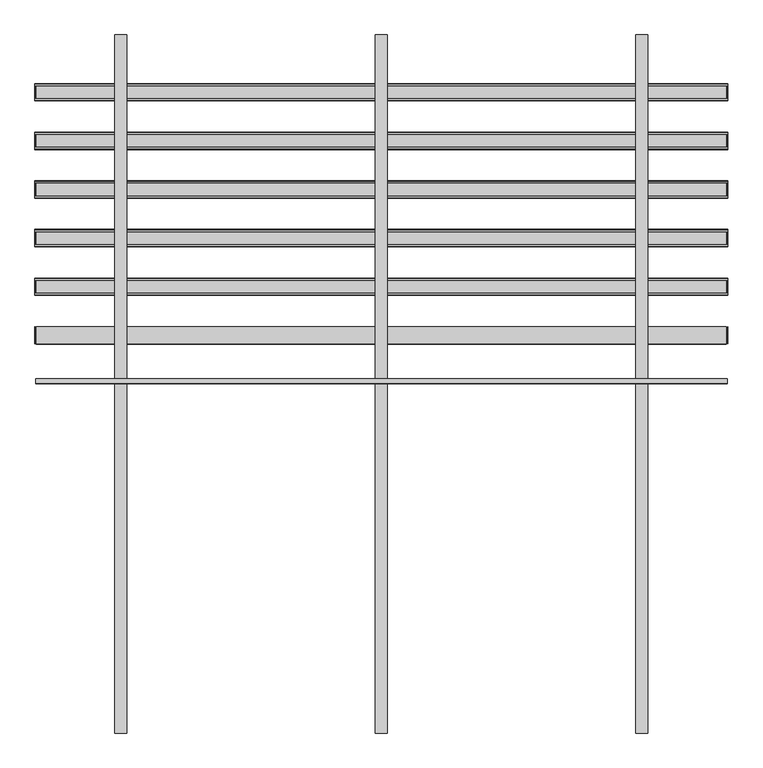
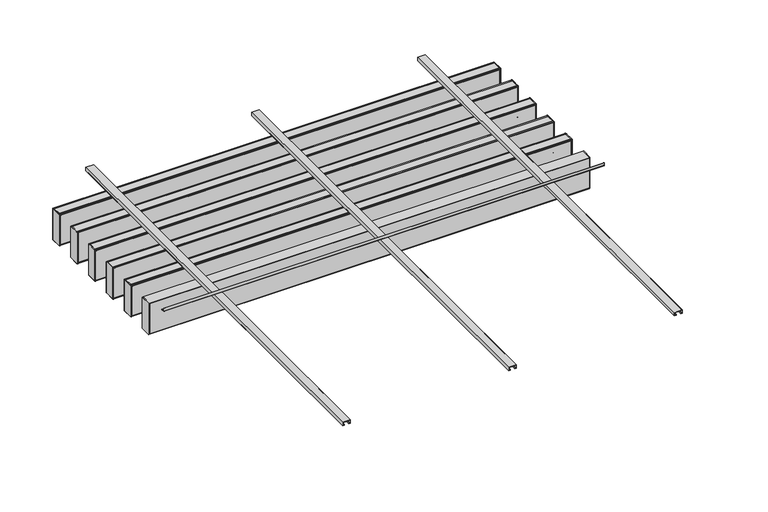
"""IFC4 building model written with IfcOpenShell, lengths in millimetres: proxy geometry, durlum_POLYLAM_KS : durlum_POLYLAM-KS/-S 100 RV-L6."""

from ifc_helpers import new_model, si_unit, point, frame, frame_2d, origin, place, context, project, spatial, polyline, circle_curve, trimmed, segment, composite_curve, outline, extrude, source, transform, mapped, element, save
from ifc_brep_helpers import plane_surface, cylinder_surface, advanced_brep


def generic_models_e6ab58be(model_context):
    return source(origin(), model_context, "Body", "SolidModel", [
        extrude(outline(polyline([(2027.0, 20.5), (2020.0, 20.5), (2020.0, 35.0), (2050.0, 35.0), (2050.0, -35.0), (2020.0, -35.0), (2020.0, -20.5), (2027.0, -20.5), (2027.0, -22.0), (2021.5, -22.0), (2021.5, -33.5), (2048.5, -33.5), (2048.5, 33.5), (2021.5, 33.5), (2021.5, 22.0), (2027.0, 22.0), (2027.0, 20.5)])), frame((0.0, -2010.0, 0.0), z_axis=(0.0, 1.0, 0.0), x_axis=(0.0, 0.0, 1.0)), (0.0, 0.0, 1.0), 4020.0),
        extrude(outline(polyline([(2027.0, -1479.5), (2020.0, -1479.5), (2020.0, -1465.0), (2050.0, -1465.0), (2050.0, -1535.0), (2020.0, -1535.0), (2020.0, -1520.5), (2027.0, -1520.5), (2027.0, -1522.0), (2021.5, -1522.0), (2021.5, -1533.5), (2048.5, -1533.5), (2048.5, -1466.5), (2021.5, -1466.5), (2021.5, -1478.0), (2027.0, -1478.0), (2027.0, -1479.5)])), frame((0.0, -2010.0, 0.0), z_axis=(0.0, 1.0, 0.0), x_axis=(0.0, 0.0, 1.0)), (0.0, 0.0, 1.0), 4020.0),
        extrude(outline(polyline([(2027.0, 1520.5), (2020.0, 1520.5), (2020.0, 1535.0), (2050.0, 1535.0), (2050.0, 1465.0), (2020.0, 1465.0), (2020.0, 1479.5), (2027.0, 1479.5), (2027.0, 1478.0), (2021.5, 1478.0), (2021.5, 1466.5), (2048.5, 1466.5), (2048.5, 1533.5), (2021.5, 1533.5), (2021.5, 1522.0), (2027.0, 1522.0), (2027.0, 1520.5)])), frame((0.0, -2010.0, 0.0), z_axis=(0.0, 1.0, 0.0), x_axis=(0.0, 0.0, 1.0)), (0.0, 0.0, 1.0), 4020.0),
        extrude(outline(composite_curve([segment(polyline([(2.0, 2079.9), (2.0, 2054.0)]), True, "CONTINUOUS"), segment(trimmed(circle_curve(frame_2d((4.0, 2054.0)), 2.0), [point((2.0, 2054.0))], [point((4.0, 2052.0))], True, "CARTESIAN"), True, "CONTINUOUS"), segment(polyline([(4.0, 2052.0), (29.9, 2052.0), (29.9, 2050.0), (4.0, 2050.0)]), True, "CONTINUOUS"), segment(trimmed(circle_curve(frame_2d((4.0, 2054.0)), 4.0), [point((4.0, 2050.0))], [point((0.0, 2054.0))], False, "CARTESIAN"), True, "CONTINUOUS"), segment(polyline([(0.0, 2054.0), (0.0, 2079.9), (2.0, 2079.9)]), True, "CONTINUOUS")], self_intersect=False)), frame((-1990.0, 0.0, 0.0), z_axis=(1.0, 0.0, 0.0), x_axis=(0.0, 1.0, 0.0)), (0.0, 0.0, 1.0), 3980.0),
        extrude(outline(polyline([(1993.0, 1729.0), (1995.0, 1729.0), (1995.0, 1631.0), (1993.0, 1631.0), (1993.0, 1729.0)])), frame((0.0, 0.0, 1691.9), z_axis=(0.0, 0.0, 1.0), x_axis=(1.0, 0.0, 0.0)), (0.0, 0.0, 1.0), 298.1604454),
        extrude(outline(polyline([(-1995.0, 1729.0), (-1993.0, 1729.0), (-1993.0, 1631.0), (-1995.0, 1631.0), (-1995.0, 1729.0)])), frame((0.0, 0.0, 1691.9), z_axis=(0.0, 0.0, 1.0), x_axis=(1.0, 0.0, 0.0)), (0.0, 0.0, 1.0), 298.1604454),
        extrude(outline(polyline([(1986.5, 1729.0), (1986.5, 1631.0), (-1986.5, 1631.0), (-1986.5, 1729.0), (1986.5, 1729.0)])), frame((0.0, 0.0, 1691.9), z_axis=(0.0, 0.0, 1.0), x_axis=(1.0, 0.0, 0.0)), (0.0, 0.0, 1.0), 298.0),
        extrude(outline(polyline([(1986.5, 1729.0), (-1986.5, 1729.0), (-1986.5, 1730.0), (1986.5, 1730.0), (1986.5, 1729.0)])), frame((0.0, 0.0, 1699.4), z_axis=(0.0, 0.0, 1.0), x_axis=(1.0, 0.0, 0.0)), (0.0, 0.0, 1.0), 283.0),
        extrude(outline(polyline([(1986.5, 1630.0), (-1986.5, 1630.0), (-1986.5, 1631.0), (1986.5, 1631.0), (1986.5, 1630.0)])), frame((0.0, 0.0, 1699.4), z_axis=(0.0, 0.0, 1.0), x_axis=(1.0, 0.0, 0.0)), (0.0, 0.0, 1.0), 283.0),
        advanced_brep(
        [(1995.0, 1728.0, 1990.9), (1995.0, 1718.0, 1990.9), (1995.0, 1718.0, 1990.0604454), (1995.0, 1729.0, 1990.0604454), (1995.0, 1729.0, 1691.9), (1995.0, 1631.0, 1691.9), (1995.0, 1631.0, 1989.8155735), (1995.0, 1642.0, 1989.8155735), (1995.0, 1642.0, 1990.9), (1995.0, 1632.0, 1990.9), (1995.0, 1630.0, 1988.9), (1995.0, 1630.0, 1692.9), (1995.0, 1632.0, 1690.9), (1995.0, 1728.0, 1690.9), (1995.0, 1730.0, 1692.9), (1995.0, 1730.0, 1988.9), (-1995.0, 1728.0, 1990.9), (-1995.0, 1730.0, 1988.9), (-1995.0, 1730.0, 1692.9), (-1995.0, 1728.0, 1690.9), (-1995.0, 1632.0, 1690.9), (-1995.0, 1630.0, 1692.9), (-1995.0, 1630.0, 1988.9), (-1995.0, 1632.0, 1990.9), (-1995.0, 1642.0, 1990.9), (-1995.0, 1642.0, 1989.8155735), (-1995.0, 1631.0, 1989.8155735), (-1995.0, 1631.0, 1691.9), (-1995.0, 1729.0, 1691.9), (-1995.0, 1729.0, 1990.0604454), (-1995.0, 1718.0, 1990.0604454), (-1995.0, 1718.0, 1990.9), (-1986.5, 1729.0, 1982.4), (1986.5, 1729.0, 1982.4), (1986.5, 1729.0, 1699.4), (-1986.5, 1729.0, 1699.4), (1986.5, 1631.0, 1982.4), (-1986.5, 1631.0, 1982.4), (-1986.5, 1631.0, 1699.4), (1986.5, 1631.0, 1699.4), (-1986.5, 1630.0, 1982.4), (1986.5, 1630.0, 1982.4), (1986.5, 1630.0, 1699.4), (-1986.5, 1630.0, 1699.4), (1986.5, 1730.0, 1982.4), (-1986.5, 1730.0, 1982.4), (-1986.5, 1730.0, 1699.4), (1986.5, 1730.0, 1699.4)],
        [
            (0, 1),
            (1, 2),
            (2, 3),
            (3, 4),
            (4, 5),
            (5, 6),
            (6, 7),
            (7, 8),
            (8, 9),
            (9, 10, circle_curve(frame((1995.0, 1632.0, 1988.9), z_axis=(1.0, 0.0, 0.0), x_axis=(0.0, 1.0, 0.0)), 2.0)),
            (10, 11),
            (11, 12, circle_curve(frame((1995.0, 1632.0, 1692.9), z_axis=(1.0, 0.0, 0.0), x_axis=(0.0, 1.0, 0.0)), 2.0)),
            (12, 13),
            (13, 14, circle_curve(frame((1995.0, 1728.0, 1692.9), z_axis=(1.0, 0.0, 0.0), x_axis=(0.0, 1.0, 0.0)), 2.0)),
            (14, 15),
            (15, 0, circle_curve(frame((1995.0, 1728.0, 1988.9), z_axis=(1.0, 0.0, 0.0), x_axis=(0.0, 1.0, 0.0)), 2.0)),
            (16, 17, circle_curve(frame((-1995.0, 1728.0, 1988.9), z_axis=(-1.0, 0.0, 0.0), x_axis=(0.0, 1.0, 0.0)), 2.0)),
            (17, 18),
            (18, 19, circle_curve(frame((-1995.0, 1728.0, 1692.9), z_axis=(-1.0, 0.0, 0.0), x_axis=(0.0, 1.0, 0.0)), 2.0)),
            (19, 20),
            (20, 21, circle_curve(frame((-1995.0, 1632.0, 1692.9), z_axis=(-1.0, 0.0, 0.0), x_axis=(0.0, 1.0, 0.0)), 2.0)),
            (21, 22),
            (22, 23, circle_curve(frame((-1995.0, 1632.0, 1988.9), z_axis=(-1.0, 0.0, 0.0), x_axis=(0.0, 1.0, 0.0)), 2.0)),
            (23, 24),
            (24, 25),
            (25, 26),
            (26, 27),
            (27, 28),
            (28, 29),
            (29, 30),
            (30, 31),
            (31, 16),
            (0, 16),
            (31, 1),
            (30, 2),
            (29, 3),
            (28, 4),
            (32, 33),
            (33, 34),
            (34, 35),
            (35, 32),
            (27, 5),
            (26, 6),
            (36, 37),
            (37, 38),
            (38, 39),
            (39, 36),
            (25, 7),
            (24, 8),
            (23, 9),
            (10, 22),
            (21, 11),
            (40, 41),
            (41, 42),
            (42, 43),
            (43, 40),
            (12, 20),
            (19, 13),
            (14, 18),
            (17, 15),
            (44, 45),
            (45, 46),
            (46, 47),
            (47, 44),
            (44, 33),
            (32, 45),
            (36, 41),
            (40, 37),
            (35, 46),
            (43, 38),
            (34, 47),
            (42, 39),
        ],
        [
            plane_surface(frame((1995.0, 1718.0, 1990.9), z_axis=(1.0, 0.0, 0.0), x_axis=(0.0, -1.0, 0.0))),
            plane_surface(frame((-1995.0, 1718.0, 1990.9), z_axis=(-1.0, 0.0, 0.0), x_axis=(0.0, 1.0, 0.0))),
            plane_surface(frame((1995.0, 1728.0, 1990.9), z_axis=(0.0, 0.0, 1.0), x_axis=(-1.0, 0.0, 0.0))),
            plane_surface(frame((1995.0, 1718.0, 1990.9), z_axis=(0.0, -1.0, 0.0), x_axis=(-1.0, 0.0, 0.0))),
            plane_surface(frame((1995.0, 1718.0, 1990.0604454), z_axis=(0.0, 0.0, -1.0), x_axis=(-1.0, 0.0, 0.0))),
            plane_surface(frame((1995.0, 1729.0, 1990.0604454), z_axis=(0.0, -1.0, 0.0), x_axis=(-1.0, 0.0, 0.0))),
            plane_surface(frame((1995.0, 1729.0, 1691.9), z_axis=(0.0, 0.0, 1.0), x_axis=(-1.0, 0.0, 0.0))),
            plane_surface(frame((1995.0, 1631.0, 1691.9), z_axis=(0.0, 1.0, 0.0), x_axis=(-1.0, 0.0, 0.0))),
            plane_surface(frame((1995.0, 1631.0, 1989.8155735), z_axis=(0.0, 0.0, -1.0), x_axis=(-1.0, 0.0, 0.0))),
            plane_surface(frame((1995.0, 1642.0, 1989.8155735), z_axis=(0.0, 1.0, 0.0), x_axis=(-1.0, 0.0, 0.0))),
            plane_surface(frame((1995.0, 1642.0, 1990.9), z_axis=(0.0, 0.0, 1.0), x_axis=(-1.0, 0.0, 0.0))),
            plane_surface(frame((1995.0, 1630.0, 1988.9), z_axis=(0.0, -1.0, 0.0), x_axis=(-1.0, 0.0, 0.0))),
            plane_surface(frame((1995.0, 1632.0, 1690.9), z_axis=(0.0, 0.0, -1.0), x_axis=(-1.0, 0.0, 0.0))),
            plane_surface(frame((1995.0, 1730.0, 1692.9), z_axis=(0.0, 1.0, 0.0), x_axis=(-1.0, 0.0, 0.0))),
            cylinder_surface(frame((-1995.0, 1632.0, 1988.9), z_axis=(1.0, 0.0, 0.0), x_axis=(0.0, 1.0, 0.0)), 2.0),
            cylinder_surface(frame((-1995.0, 1632.0, 1692.9), z_axis=(1.0, 0.0, 0.0), x_axis=(0.0, 1.0, 0.0)), 2.0),
            cylinder_surface(frame((-1995.0, 1728.0, 1692.9), z_axis=(1.0, 0.0, 0.0), x_axis=(0.0, 1.0, 0.0)), 2.0),
            cylinder_surface(frame((-1995.0, 1728.0, 1988.9), z_axis=(1.0, 0.0, 0.0), x_axis=(0.0, 1.0, 0.0)), 2.0),
            plane_surface(frame((1986.5, 1630.0, 1982.4), z_axis=(0.0, 0.0, -1.0), x_axis=(0.0, 1.0, 0.0))),
            plane_surface(frame((-1986.5, 1630.0, 1982.4), z_axis=(1.0, 0.0, 0.0), x_axis=(0.0, 1.0, 0.0))),
            plane_surface(frame((-1986.5, 1630.0, 1699.4), z_axis=(0.0, 0.0, 1.0), x_axis=(0.0, 1.0, 0.0))),
            plane_surface(frame((1986.5, 1630.0, 1699.4), z_axis=(-1.0, 0.0, 0.0), x_axis=(0.0, 1.0, 0.0))),
        ],
        [
            (0, [[1, 2, 3, 4, 5, 6, 7, 8, 9, 10, 11, 12, 13, 14, 15, 16]]),
            (1, [[17, 18, 19, 20, 21, 22, 23, 24, 25, 26, 27, 28, 29, 30, 31, 32]]),
            (2, [[-1, 33, -32, 34]]),
            (3, [[-2, -34, -31, 35]]),
            (4, [[-3, -35, -30, 36]]),
            (5, [[-4, -36, -29, 37], [38, 39, 40, 41]]),
            (6, [[-5, -37, -28, 42]]),
            (7, [[-6, -42, -27, 43], [44, 45, 46, 47]]),
            (8, [[-7, -43, -26, 48]]),
            (9, [[-8, -48, -25, 49]]),
            (10, [[-9, -49, -24, 50]]),
            (11, [[-11, 51, -22, 52], [53, 54, 55, 56]]),
            (12, [[-13, 57, -20, 58]]),
            (13, [[-15, 59, -18, 60], [61, 62, 63, 64]]),
            (14, [[-10, -50, -23, -51]]),
            (15, [[-12, -52, -21, -57]]),
            (16, [[-14, -58, -19, -59]]),
            (17, [[-16, -60, -17, -33]]),
            (18, [[65, -38, 66, -61]]),
            (18, [[67, -53, 68, -44]]),
            (19, [[-66, -41, 69, -62]]),
            (19, [[-68, -56, 70, -45]]),
            (20, [[-69, -40, 71, -63]]),
            (20, [[-70, -55, 72, -46]]),
            (21, [[-65, -64, -71, -39]]),
            (21, [[-67, -47, -72, -54]]),
        ],
    ),
        extrude(outline(polyline([(1993.0, 1449.0), (1995.0, 1449.0), (1995.0, 1351.0), (1993.0, 1351.0), (1993.0, 1449.0)])), frame((0.0, 0.0, 1691.9), z_axis=(0.0, 0.0, 1.0), x_axis=(1.0, 0.0, 0.0)), (0.0, 0.0, 1.0), 298.1604454),
        extrude(outline(polyline([(-1995.0, 1449.0), (-1993.0, 1449.0), (-1993.0, 1351.0), (-1995.0, 1351.0), (-1995.0, 1449.0)])), frame((0.0, 0.0, 1691.9), z_axis=(0.0, 0.0, 1.0), x_axis=(1.0, 0.0, 0.0)), (0.0, 0.0, 1.0), 298.1604454),
        extrude(outline(polyline([(1986.5, 1449.0), (1986.5, 1351.0), (-1986.5, 1351.0), (-1986.5, 1449.0), (1986.5, 1449.0)])), frame((0.0, 0.0, 1691.9), z_axis=(0.0, 0.0, 1.0), x_axis=(1.0, 0.0, 0.0)), (0.0, 0.0, 1.0), 298.0),
        extrude(outline(polyline([(1986.5, 1449.0), (-1986.5, 1449.0), (-1986.5, 1450.0), (1986.5, 1450.0), (1986.5, 1449.0)])), frame((0.0, 0.0, 1699.4), z_axis=(0.0, 0.0, 1.0), x_axis=(1.0, 0.0, 0.0)), (0.0, 0.0, 1.0), 283.0),
        extrude(outline(polyline([(1986.5, 1350.0), (-1986.5, 1350.0), (-1986.5, 1351.0), (1986.5, 1351.0), (1986.5, 1350.0)])), frame((0.0, 0.0, 1699.4), z_axis=(0.0, 0.0, 1.0), x_axis=(1.0, 0.0, 0.0)), (0.0, 0.0, 1.0), 283.0),
        advanced_brep(
        [(1995.0, 1448.0, 1990.9), (1995.0, 1438.0, 1990.9), (1995.0, 1438.0, 1990.0604454), (1995.0, 1449.0, 1990.0604454), (1995.0, 1449.0, 1691.9), (1995.0, 1351.0, 1691.9), (1995.0, 1351.0, 1989.8155735), (1995.0, 1362.0, 1989.8155735), (1995.0, 1362.0, 1990.9), (1995.0, 1352.0, 1990.9), (1995.0, 1350.0, 1988.9), (1995.0, 1350.0, 1692.9), (1995.0, 1352.0, 1690.9), (1995.0, 1448.0, 1690.9), (1995.0, 1450.0, 1692.9), (1995.0, 1450.0, 1988.9), (-1995.0, 1448.0, 1990.9), (-1995.0, 1450.0, 1988.9), (-1995.0, 1450.0, 1692.9), (-1995.0, 1448.0, 1690.9), (-1995.0, 1352.0, 1690.9), (-1995.0, 1350.0, 1692.9), (-1995.0, 1350.0, 1988.9), (-1995.0, 1352.0, 1990.9), (-1995.0, 1362.0, 1990.9), (-1995.0, 1362.0, 1989.8155735), (-1995.0, 1351.0, 1989.8155735), (-1995.0, 1351.0, 1691.9), (-1995.0, 1449.0, 1691.9), (-1995.0, 1449.0, 1990.0604454), (-1995.0, 1438.0, 1990.0604454), (-1995.0, 1438.0, 1990.9), (-1986.5, 1449.0, 1982.4), (1986.5, 1449.0, 1982.4), (1986.5, 1449.0, 1699.4), (-1986.5, 1449.0, 1699.4), (1986.5, 1351.0, 1982.4), (-1986.5, 1351.0, 1982.4), (-1986.5, 1351.0, 1699.4), (1986.5, 1351.0, 1699.4), (-1986.5, 1350.0, 1982.4), (1986.5, 1350.0, 1982.4), (1986.5, 1350.0, 1699.4), (-1986.5, 1350.0, 1699.4), (1986.5, 1450.0, 1982.4), (-1986.5, 1450.0, 1982.4), (-1986.5, 1450.0, 1699.4), (1986.5, 1450.0, 1699.4)],
        [
            (0, 1),
            (1, 2),
            (2, 3),
            (3, 4),
            (4, 5),
            (5, 6),
            (6, 7),
            (7, 8),
            (8, 9),
            (9, 10, circle_curve(frame((1995.0, 1352.0, 1988.9), z_axis=(1.0, 0.0, 0.0), x_axis=(0.0, 1.0, 0.0)), 2.0)),
            (10, 11),
            (11, 12, circle_curve(frame((1995.0, 1352.0, 1692.9), z_axis=(1.0, 0.0, 0.0), x_axis=(0.0, 1.0, 0.0)), 2.0)),
            (12, 13),
            (13, 14, circle_curve(frame((1995.0, 1448.0, 1692.9), z_axis=(1.0, 0.0, 0.0), x_axis=(0.0, 1.0, 0.0)), 2.0)),
            (14, 15),
            (15, 0, circle_curve(frame((1995.0, 1448.0, 1988.9), z_axis=(1.0, 0.0, 0.0), x_axis=(0.0, 1.0, 0.0)), 2.0)),
            (16, 17, circle_curve(frame((-1995.0, 1448.0, 1988.9), z_axis=(-1.0, 0.0, 0.0), x_axis=(0.0, 1.0, 0.0)), 2.0)),
            (17, 18),
            (18, 19, circle_curve(frame((-1995.0, 1448.0, 1692.9), z_axis=(-1.0, 0.0, 0.0), x_axis=(0.0, 1.0, 0.0)), 2.0)),
            (19, 20),
            (20, 21, circle_curve(frame((-1995.0, 1352.0, 1692.9), z_axis=(-1.0, 0.0, 0.0), x_axis=(0.0, 1.0, 0.0)), 2.0)),
            (21, 22),
            (22, 23, circle_curve(frame((-1995.0, 1352.0, 1988.9), z_axis=(-1.0, 0.0, 0.0), x_axis=(0.0, 1.0, 0.0)), 2.0)),
            (23, 24),
            (24, 25),
            (25, 26),
            (26, 27),
            (27, 28),
            (28, 29),
            (29, 30),
            (30, 31),
            (31, 16),
            (0, 16),
            (31, 1),
            (30, 2),
            (29, 3),
            (28, 4),
            (32, 33),
            (33, 34),
            (34, 35),
            (35, 32),
            (27, 5),
            (26, 6),
            (36, 37),
            (37, 38),
            (38, 39),
            (39, 36),
            (25, 7),
            (24, 8),
            (23, 9),
            (10, 22),
            (21, 11),
            (40, 41),
            (41, 42),
            (42, 43),
            (43, 40),
            (12, 20),
            (19, 13),
            (14, 18),
            (17, 15),
            (44, 45),
            (45, 46),
            (46, 47),
            (47, 44),
            (44, 33),
            (32, 45),
            (36, 41),
            (40, 37),
            (35, 46),
            (43, 38),
            (34, 47),
            (42, 39),
        ],
        [
            plane_surface(frame((1995.0, 1438.0, 1990.9), z_axis=(1.0, 0.0, 0.0), x_axis=(0.0, -1.0, 0.0))),
            plane_surface(frame((-1995.0, 1438.0, 1990.9), z_axis=(-1.0, 0.0, 0.0), x_axis=(0.0, 1.0, 0.0))),
            plane_surface(frame((1995.0, 1448.0, 1990.9), z_axis=(0.0, 0.0, 1.0), x_axis=(-1.0, 0.0, 0.0))),
            plane_surface(frame((1995.0, 1438.0, 1990.9), z_axis=(0.0, -1.0, 0.0), x_axis=(-1.0, 0.0, 0.0))),
            plane_surface(frame((1995.0, 1438.0, 1990.0604454), z_axis=(0.0, 0.0, -1.0), x_axis=(-1.0, 0.0, 0.0))),
            plane_surface(frame((1995.0, 1449.0, 1990.0604454), z_axis=(0.0, -1.0, 0.0), x_axis=(-1.0, 0.0, 0.0))),
            plane_surface(frame((1995.0, 1449.0, 1691.9), z_axis=(0.0, 0.0, 1.0), x_axis=(-1.0, 0.0, 0.0))),
            plane_surface(frame((1995.0, 1351.0, 1691.9), z_axis=(0.0, 1.0, 0.0), x_axis=(-1.0, 0.0, 0.0))),
            plane_surface(frame((1995.0, 1351.0, 1989.8155735), z_axis=(0.0, 0.0, -1.0), x_axis=(-1.0, 0.0, 0.0))),
            plane_surface(frame((1995.0, 1362.0, 1989.8155735), z_axis=(0.0, 1.0, 0.0), x_axis=(-1.0, 0.0, 0.0))),
            plane_surface(frame((1995.0, 1362.0, 1990.9), z_axis=(0.0, 0.0, 1.0), x_axis=(-1.0, 0.0, 0.0))),
            plane_surface(frame((1995.0, 1350.0, 1988.9), z_axis=(0.0, -1.0, 0.0), x_axis=(-1.0, 0.0, 0.0))),
            plane_surface(frame((1995.0, 1352.0, 1690.9), z_axis=(0.0, 0.0, -1.0), x_axis=(-1.0, 0.0, 0.0))),
            plane_surface(frame((1995.0, 1450.0, 1692.9), z_axis=(0.0, 1.0, 0.0), x_axis=(-1.0, 0.0, 0.0))),
            cylinder_surface(frame((-1995.0, 1352.0, 1988.9), z_axis=(1.0, 0.0, 0.0), x_axis=(0.0, 1.0, 0.0)), 2.0),
            cylinder_surface(frame((-1995.0, 1352.0, 1692.9), z_axis=(1.0, 0.0, 0.0), x_axis=(0.0, 1.0, 0.0)), 2.0),
            cylinder_surface(frame((-1995.0, 1448.0, 1692.9), z_axis=(1.0, 0.0, 0.0), x_axis=(0.0, 1.0, 0.0)), 2.0),
            cylinder_surface(frame((-1995.0, 1448.0, 1988.9), z_axis=(1.0, 0.0, 0.0), x_axis=(0.0, 1.0, 0.0)), 2.0),
            plane_surface(frame((1986.5, 1350.0, 1982.4), z_axis=(0.0, 0.0, -1.0), x_axis=(0.0, 1.0, 0.0))),
            plane_surface(frame((-1986.5, 1350.0, 1982.4), z_axis=(1.0, 0.0, 0.0), x_axis=(0.0, 1.0, 0.0))),
            plane_surface(frame((-1986.5, 1350.0, 1699.4), z_axis=(0.0, 0.0, 1.0), x_axis=(0.0, 1.0, 0.0))),
            plane_surface(frame((1986.5, 1350.0, 1699.4), z_axis=(-1.0, 0.0, 0.0), x_axis=(0.0, 1.0, 0.0))),
        ],
        [
            (0, [[1, 2, 3, 4, 5, 6, 7, 8, 9, 10, 11, 12, 13, 14, 15, 16]]),
            (1, [[17, 18, 19, 20, 21, 22, 23, 24, 25, 26, 27, 28, 29, 30, 31, 32]]),
            (2, [[-1, 33, -32, 34]]),
            (3, [[-2, -34, -31, 35]]),
            (4, [[-3, -35, -30, 36]]),
            (5, [[-4, -36, -29, 37], [38, 39, 40, 41]]),
            (6, [[-5, -37, -28, 42]]),
            (7, [[-6, -42, -27, 43], [44, 45, 46, 47]]),
            (8, [[-7, -43, -26, 48]]),
            (9, [[-8, -48, -25, 49]]),
            (10, [[-9, -49, -24, 50]]),
            (11, [[-11, 51, -22, 52], [53, 54, 55, 56]]),
            (12, [[-13, 57, -20, 58]]),
            (13, [[-15, 59, -18, 60], [61, 62, 63, 64]]),
            (14, [[-10, -50, -23, -51]]),
            (15, [[-12, -52, -21, -57]]),
            (16, [[-14, -58, -19, -59]]),
            (17, [[-16, -60, -17, -33]]),
            (18, [[65, -38, 66, -61]]),
            (18, [[67, -53, 68, -44]]),
            (19, [[-66, -41, 69, -62]]),
            (19, [[-68, -56, 70, -45]]),
            (20, [[-69, -40, 71, -63]]),
            (20, [[-70, -55, 72, -46]]),
            (21, [[-65, -64, -71, -39]]),
            (21, [[-67, -47, -72, -54]]),
        ],
    ),
        extrude(outline(polyline([(1993.0, 1169.0), (1995.0, 1169.0), (1995.0, 1071.0), (1993.0, 1071.0), (1993.0, 1169.0)])), frame((0.0, 0.0, 1691.9), z_axis=(0.0, 0.0, 1.0), x_axis=(1.0, 0.0, 0.0)), (0.0, 0.0, 1.0), 298.1604454),
        extrude(outline(polyline([(-1995.0, 1169.0), (-1993.0, 1169.0), (-1993.0, 1071.0), (-1995.0, 1071.0), (-1995.0, 1169.0)])), frame((0.0, 0.0, 1691.9), z_axis=(0.0, 0.0, 1.0), x_axis=(1.0, 0.0, 0.0)), (0.0, 0.0, 1.0), 298.1604454),
        extrude(outline(polyline([(1986.5, 1169.0), (1986.5, 1071.0), (-1986.5, 1071.0), (-1986.5, 1169.0), (1986.5, 1169.0)])), frame((0.0, 0.0, 1691.9), z_axis=(0.0, 0.0, 1.0), x_axis=(1.0, 0.0, 0.0)), (0.0, 0.0, 1.0), 298.0),
        extrude(outline(polyline([(1986.5, 1169.0), (-1986.5, 1169.0), (-1986.5, 1170.0), (1986.5, 1170.0), (1986.5, 1169.0)])), frame((0.0, 0.0, 1699.4), z_axis=(0.0, 0.0, 1.0), x_axis=(1.0, 0.0, 0.0)), (0.0, 0.0, 1.0), 283.0),
        extrude(outline(polyline([(1986.5, 1070.0), (-1986.5, 1070.0), (-1986.5, 1071.0), (1986.5, 1071.0), (1986.5, 1070.0)])), frame((0.0, 0.0, 1699.4), z_axis=(0.0, 0.0, 1.0), x_axis=(1.0, 0.0, 0.0)), (0.0, 0.0, 1.0), 283.0),
        advanced_brep(
        [(1995.0, 1168.0, 1990.9), (1995.0, 1158.0, 1990.9), (1995.0, 1158.0, 1990.0604454), (1995.0, 1169.0, 1990.0604454), (1995.0, 1169.0, 1691.9), (1995.0, 1071.0, 1691.9), (1995.0, 1071.0, 1989.8155735), (1995.0, 1082.0, 1989.8155735), (1995.0, 1082.0, 1990.9), (1995.0, 1072.0, 1990.9), (1995.0, 1070.0, 1988.9), (1995.0, 1070.0, 1692.9), (1995.0, 1072.0, 1690.9), (1995.0, 1168.0, 1690.9), (1995.0, 1170.0, 1692.9), (1995.0, 1170.0, 1988.9), (-1995.0, 1168.0, 1990.9), (-1995.0, 1170.0, 1988.9), (-1995.0, 1170.0, 1692.9), (-1995.0, 1168.0, 1690.9), (-1995.0, 1072.0, 1690.9), (-1995.0, 1070.0, 1692.9), (-1995.0, 1070.0, 1988.9), (-1995.0, 1072.0, 1990.9), (-1995.0, 1082.0, 1990.9), (-1995.0, 1082.0, 1989.8155735), (-1995.0, 1071.0, 1989.8155735), (-1995.0, 1071.0, 1691.9), (-1995.0, 1169.0, 1691.9), (-1995.0, 1169.0, 1990.0604454), (-1995.0, 1158.0, 1990.0604454), (-1995.0, 1158.0, 1990.9), (-1986.5, 1169.0, 1982.4), (1986.5, 1169.0, 1982.4), (1986.5, 1169.0, 1699.4), (-1986.5, 1169.0, 1699.4), (1986.5, 1071.0, 1982.4), (-1986.5, 1071.0, 1982.4), (-1986.5, 1071.0, 1699.4), (1986.5, 1071.0, 1699.4), (-1986.5, 1070.0, 1982.4), (1986.5, 1070.0, 1982.4), (1986.5, 1070.0, 1699.4), (-1986.5, 1070.0, 1699.4), (1986.5, 1170.0, 1982.4), (-1986.5, 1170.0, 1982.4), (-1986.5, 1170.0, 1699.4), (1986.5, 1170.0, 1699.4)],
        [
            (0, 1),
            (1, 2),
            (2, 3),
            (3, 4),
            (4, 5),
            (5, 6),
            (6, 7),
            (7, 8),
            (8, 9),
            (9, 10, circle_curve(frame((1995.0, 1072.0, 1988.9), z_axis=(1.0, 0.0, 0.0), x_axis=(0.0, 1.0, 0.0)), 2.0)),
            (10, 11),
            (11, 12, circle_curve(frame((1995.0, 1072.0, 1692.9), z_axis=(1.0, 0.0, 0.0), x_axis=(0.0, 1.0, 0.0)), 2.0)),
            (12, 13),
            (13, 14, circle_curve(frame((1995.0, 1168.0, 1692.9), z_axis=(1.0, 0.0, 0.0), x_axis=(0.0, 1.0, 0.0)), 2.0)),
            (14, 15),
            (15, 0, circle_curve(frame((1995.0, 1168.0, 1988.9), z_axis=(1.0, 0.0, 0.0), x_axis=(0.0, 1.0, 0.0)), 2.0)),
            (16, 17, circle_curve(frame((-1995.0, 1168.0, 1988.9), z_axis=(-1.0, 0.0, 0.0), x_axis=(0.0, 1.0, 0.0)), 2.0)),
            (17, 18),
            (18, 19, circle_curve(frame((-1995.0, 1168.0, 1692.9), z_axis=(-1.0, 0.0, 0.0), x_axis=(0.0, 1.0, 0.0)), 2.0)),
            (19, 20),
            (20, 21, circle_curve(frame((-1995.0, 1072.0, 1692.9), z_axis=(-1.0, 0.0, 0.0), x_axis=(0.0, 1.0, 0.0)), 2.0)),
            (21, 22),
            (22, 23, circle_curve(frame((-1995.0, 1072.0, 1988.9), z_axis=(-1.0, 0.0, 0.0), x_axis=(0.0, 1.0, 0.0)), 2.0)),
            (23, 24),
            (24, 25),
            (25, 26),
            (26, 27),
            (27, 28),
            (28, 29),
            (29, 30),
            (30, 31),
            (31, 16),
            (0, 16),
            (31, 1),
            (30, 2),
            (29, 3),
            (28, 4),
            (32, 33),
            (33, 34),
            (34, 35),
            (35, 32),
            (27, 5),
            (26, 6),
            (36, 37),
            (37, 38),
            (38, 39),
            (39, 36),
            (25, 7),
            (24, 8),
            (23, 9),
            (10, 22),
            (21, 11),
            (40, 41),
            (41, 42),
            (42, 43),
            (43, 40),
            (12, 20),
            (19, 13),
            (14, 18),
            (17, 15),
            (44, 45),
            (45, 46),
            (46, 47),
            (47, 44),
            (44, 33),
            (32, 45),
            (36, 41),
            (40, 37),
            (35, 46),
            (43, 38),
            (34, 47),
            (42, 39),
        ],
        [
            plane_surface(frame((1995.0, 1158.0, 1990.9), z_axis=(1.0, 0.0, 0.0), x_axis=(0.0, -1.0, 0.0))),
            plane_surface(frame((-1995.0, 1158.0, 1990.9), z_axis=(-1.0, 0.0, 0.0), x_axis=(0.0, 1.0, 0.0))),
            plane_surface(frame((1995.0, 1168.0, 1990.9), z_axis=(0.0, 0.0, 1.0), x_axis=(-1.0, 0.0, 0.0))),
            plane_surface(frame((1995.0, 1158.0, 1990.9), z_axis=(0.0, -1.0, 0.0), x_axis=(-1.0, 0.0, 0.0))),
            plane_surface(frame((1995.0, 1158.0, 1990.0604454), z_axis=(0.0, 0.0, -1.0), x_axis=(-1.0, 0.0, 0.0))),
            plane_surface(frame((1995.0, 1169.0, 1990.0604454), z_axis=(0.0, -1.0, 0.0), x_axis=(-1.0, 0.0, 0.0))),
            plane_surface(frame((1995.0, 1169.0, 1691.9), z_axis=(0.0, 0.0, 1.0), x_axis=(-1.0, 0.0, 0.0))),
            plane_surface(frame((1995.0, 1071.0, 1691.9), z_axis=(0.0, 1.0, 0.0), x_axis=(-1.0, 0.0, 0.0))),
            plane_surface(frame((1995.0, 1071.0, 1989.8155735), z_axis=(0.0, 0.0, -1.0), x_axis=(-1.0, 0.0, 0.0))),
            plane_surface(frame((1995.0, 1082.0, 1989.8155735), z_axis=(0.0, 1.0, 0.0), x_axis=(-1.0, 0.0, 0.0))),
            plane_surface(frame((1995.0, 1082.0, 1990.9), z_axis=(0.0, 0.0, 1.0), x_axis=(-1.0, 0.0, 0.0))),
            plane_surface(frame((1995.0, 1070.0, 1988.9), z_axis=(0.0, -1.0, 0.0), x_axis=(-1.0, 0.0, 0.0))),
            plane_surface(frame((1995.0, 1072.0, 1690.9), z_axis=(0.0, 0.0, -1.0), x_axis=(-1.0, 0.0, 0.0))),
            plane_surface(frame((1995.0, 1170.0, 1692.9), z_axis=(0.0, 1.0, 0.0), x_axis=(-1.0, 0.0, 0.0))),
            cylinder_surface(frame((-1995.0, 1072.0, 1988.9), z_axis=(1.0, 0.0, 0.0), x_axis=(0.0, 1.0, 0.0)), 2.0),
            cylinder_surface(frame((-1995.0, 1072.0, 1692.9), z_axis=(1.0, 0.0, 0.0), x_axis=(0.0, 1.0, 0.0)), 2.0),
            cylinder_surface(frame((-1995.0, 1168.0, 1692.9), z_axis=(1.0, 0.0, 0.0), x_axis=(0.0, 1.0, 0.0)), 2.0),
            cylinder_surface(frame((-1995.0, 1168.0, 1988.9), z_axis=(1.0, 0.0, 0.0), x_axis=(0.0, 1.0, 0.0)), 2.0),
            plane_surface(frame((1986.5, 1070.0, 1982.4), z_axis=(0.0, 0.0, -1.0), x_axis=(0.0, 1.0, 0.0))),
            plane_surface(frame((-1986.5, 1070.0, 1982.4), z_axis=(1.0, 0.0, 0.0), x_axis=(0.0, 1.0, 0.0))),
            plane_surface(frame((-1986.5, 1070.0, 1699.4), z_axis=(0.0, 0.0, 1.0), x_axis=(0.0, 1.0, 0.0))),
            plane_surface(frame((1986.5, 1070.0, 1699.4), z_axis=(-1.0, 0.0, 0.0), x_axis=(0.0, 1.0, 0.0))),
        ],
        [
            (0, [[1, 2, 3, 4, 5, 6, 7, 8, 9, 10, 11, 12, 13, 14, 15, 16]]),
            (1, [[17, 18, 19, 20, 21, 22, 23, 24, 25, 26, 27, 28, 29, 30, 31, 32]]),
            (2, [[-1, 33, -32, 34]]),
            (3, [[-2, -34, -31, 35]]),
            (4, [[-3, -35, -30, 36]]),
            (5, [[-4, -36, -29, 37], [38, 39, 40, 41]]),
            (6, [[-5, -37, -28, 42]]),
            (7, [[-6, -42, -27, 43], [44, 45, 46, 47]]),
            (8, [[-7, -43, -26, 48]]),
            (9, [[-8, -48, -25, 49]]),
            (10, [[-9, -49, -24, 50]]),
            (11, [[-11, 51, -22, 52], [53, 54, 55, 56]]),
            (12, [[-13, 57, -20, 58]]),
            (13, [[-15, 59, -18, 60], [61, 62, 63, 64]]),
            (14, [[-10, -50, -23, -51]]),
            (15, [[-12, -52, -21, -57]]),
            (16, [[-14, -58, -19, -59]]),
            (17, [[-16, -60, -17, -33]]),
            (18, [[65, -38, 66, -61]]),
            (18, [[67, -53, 68, -44]]),
            (19, [[-66, -41, 69, -62]]),
            (19, [[-68, -56, 70, -45]]),
            (20, [[-69, -40, 71, -63]]),
            (20, [[-70, -55, 72, -46]]),
            (21, [[-65, -64, -71, -39]]),
            (21, [[-67, -47, -72, -54]]),
        ],
    ),
        extrude(outline(polyline([(1993.0, 889.0), (1995.0, 889.0), (1995.0, 791.0), (1993.0, 791.0), (1993.0, 889.0)])), frame((0.0, 0.0, 1691.9), z_axis=(0.0, 0.0, 1.0), x_axis=(1.0, 0.0, 0.0)), (0.0, 0.0, 1.0), 298.1604454),
        extrude(outline(polyline([(-1995.0, 889.0), (-1993.0, 889.0), (-1993.0, 791.0), (-1995.0, 791.0), (-1995.0, 889.0)])), frame((0.0, 0.0, 1691.9), z_axis=(0.0, 0.0, 1.0), x_axis=(1.0, 0.0, 0.0)), (0.0, 0.0, 1.0), 298.1604454),
        extrude(outline(polyline([(1986.5, 889.0), (1986.5, 791.0), (-1986.5, 791.0), (-1986.5, 889.0), (1986.5, 889.0)])), frame((0.0, 0.0, 1691.9), z_axis=(0.0, 0.0, 1.0), x_axis=(1.0, 0.0, 0.0)), (0.0, 0.0, 1.0), 298.0),
        extrude(outline(polyline([(1986.5, 889.0), (-1986.5, 889.0), (-1986.5, 890.0), (1986.5, 890.0), (1986.5, 889.0)])), frame((0.0, 0.0, 1699.4), z_axis=(0.0, 0.0, 1.0), x_axis=(1.0, 0.0, 0.0)), (0.0, 0.0, 1.0), 283.0),
        extrude(outline(polyline([(1986.5, 790.0), (-1986.5, 790.0), (-1986.5, 791.0), (1986.5, 791.0), (1986.5, 790.0)])), frame((0.0, 0.0, 1699.4), z_axis=(0.0, 0.0, 1.0), x_axis=(1.0, 0.0, 0.0)), (0.0, 0.0, 1.0), 283.0),
        advanced_brep(
        [(1995.0, 888.0, 1990.9), (1995.0, 878.0, 1990.9), (1995.0, 878.0, 1990.0604454), (1995.0, 889.0, 1990.0604454), (1995.0, 889.0, 1691.9), (1995.0, 791.0, 1691.9), (1995.0, 791.0, 1989.8155735), (1995.0, 802.0, 1989.8155735), (1995.0, 802.0, 1990.9), (1995.0, 792.0, 1990.9), (1995.0, 790.0, 1988.9), (1995.0, 790.0, 1692.9), (1995.0, 792.0, 1690.9), (1995.0, 888.0, 1690.9), (1995.0, 890.0, 1692.9), (1995.0, 890.0, 1988.9), (-1995.0, 888.0, 1990.9), (-1995.0, 890.0, 1988.9), (-1995.0, 890.0, 1692.9), (-1995.0, 888.0, 1690.9), (-1995.0, 792.0, 1690.9), (-1995.0, 790.0, 1692.9), (-1995.0, 790.0, 1988.9), (-1995.0, 792.0, 1990.9), (-1995.0, 802.0, 1990.9), (-1995.0, 802.0, 1989.8155735), (-1995.0, 791.0, 1989.8155735), (-1995.0, 791.0, 1691.9), (-1995.0, 889.0, 1691.9), (-1995.0, 889.0, 1990.0604454), (-1995.0, 878.0, 1990.0604454), (-1995.0, 878.0, 1990.9), (-1986.5, 889.0, 1982.4), (1986.5, 889.0, 1982.4), (1986.5, 889.0, 1699.4), (-1986.5, 889.0, 1699.4), (1986.5, 791.0, 1982.4), (-1986.5, 791.0, 1982.4), (-1986.5, 791.0, 1699.4), (1986.5, 791.0, 1699.4), (-1986.5, 790.0, 1982.4), (1986.5, 790.0, 1982.4), (1986.5, 790.0, 1699.4), (-1986.5, 790.0, 1699.4), (1986.5, 890.0, 1982.4), (-1986.5, 890.0, 1982.4), (-1986.5, 890.0, 1699.4), (1986.5, 890.0, 1699.4)],
        [
            (0, 1),
            (1, 2),
            (2, 3),
            (3, 4),
            (4, 5),
            (5, 6),
            (6, 7),
            (7, 8),
            (8, 9),
            (9, 10, circle_curve(frame((1995.0, 792.0, 1988.9), z_axis=(1.0, 0.0, 0.0), x_axis=(0.0, 1.0, 0.0)), 2.0)),
            (10, 11),
            (11, 12, circle_curve(frame((1995.0, 792.0, 1692.9), z_axis=(1.0, 0.0, 0.0), x_axis=(0.0, 1.0, 0.0)), 2.0)),
            (12, 13),
            (13, 14, circle_curve(frame((1995.0, 888.0, 1692.9), z_axis=(1.0, 0.0, 0.0), x_axis=(0.0, 1.0, 0.0)), 2.0)),
            (14, 15),
            (15, 0, circle_curve(frame((1995.0, 888.0, 1988.9), z_axis=(1.0, 0.0, 0.0), x_axis=(0.0, 1.0, 0.0)), 2.0)),
            (16, 17, circle_curve(frame((-1995.0, 888.0, 1988.9), z_axis=(-1.0, 0.0, 0.0), x_axis=(0.0, 1.0, 0.0)), 2.0)),
            (17, 18),
            (18, 19, circle_curve(frame((-1995.0, 888.0, 1692.9), z_axis=(-1.0, 0.0, 0.0), x_axis=(0.0, 1.0, 0.0)), 2.0)),
            (19, 20),
            (20, 21, circle_curve(frame((-1995.0, 792.0, 1692.9), z_axis=(-1.0, 0.0, 0.0), x_axis=(0.0, 1.0, 0.0)), 2.0)),
            (21, 22),
            (22, 23, circle_curve(frame((-1995.0, 792.0, 1988.9), z_axis=(-1.0, 0.0, 0.0), x_axis=(0.0, 1.0, 0.0)), 2.0)),
            (23, 24),
            (24, 25),
            (25, 26),
            (26, 27),
            (27, 28),
            (28, 29),
            (29, 30),
            (30, 31),
            (31, 16),
            (0, 16),
            (31, 1),
            (30, 2),
            (29, 3),
            (28, 4),
            (32, 33),
            (33, 34),
            (34, 35),
            (35, 32),
            (27, 5),
            (26, 6),
            (36, 37),
            (37, 38),
            (38, 39),
            (39, 36),
            (25, 7),
            (24, 8),
            (23, 9),
            (10, 22),
            (21, 11),
            (40, 41),
            (41, 42),
            (42, 43),
            (43, 40),
            (12, 20),
            (19, 13),
            (14, 18),
            (17, 15),
            (44, 45),
            (45, 46),
            (46, 47),
            (47, 44),
            (44, 33),
            (32, 45),
            (36, 41),
            (40, 37),
            (35, 46),
            (43, 38),
            (34, 47),
            (42, 39),
        ],
        [
            plane_surface(frame((1995.0, 878.0, 1990.9), z_axis=(1.0, 0.0, 0.0), x_axis=(0.0, -1.0, 0.0))),
            plane_surface(frame((-1995.0, 878.0, 1990.9), z_axis=(-1.0, 0.0, 0.0), x_axis=(0.0, 1.0, 0.0))),
            plane_surface(frame((1995.0, 888.0, 1990.9), z_axis=(0.0, 0.0, 1.0), x_axis=(-1.0, 0.0, 0.0))),
            plane_surface(frame((1995.0, 878.0, 1990.9), z_axis=(0.0, -1.0, 0.0), x_axis=(-1.0, 0.0, 0.0))),
            plane_surface(frame((1995.0, 878.0, 1990.0604454), z_axis=(0.0, 0.0, -1.0), x_axis=(-1.0, 0.0, 0.0))),
            plane_surface(frame((1995.0, 889.0, 1990.0604454), z_axis=(0.0, -1.0, 0.0), x_axis=(-1.0, 0.0, 0.0))),
            plane_surface(frame((1995.0, 889.0, 1691.9), z_axis=(0.0, 0.0, 1.0), x_axis=(-1.0, 0.0, 0.0))),
            plane_surface(frame((1995.0, 791.0, 1691.9), z_axis=(0.0, 1.0, 0.0), x_axis=(-1.0, 0.0, 0.0))),
            plane_surface(frame((1995.0, 791.0, 1989.8155735), z_axis=(0.0, 0.0, -1.0), x_axis=(-1.0, 0.0, 0.0))),
            plane_surface(frame((1995.0, 802.0, 1989.8155735), z_axis=(0.0, 1.0, 0.0), x_axis=(-1.0, 0.0, 0.0))),
            plane_surface(frame((1995.0, 802.0, 1990.9), z_axis=(0.0, 0.0, 1.0), x_axis=(-1.0, 0.0, 0.0))),
            plane_surface(frame((1995.0, 790.0, 1988.9), z_axis=(0.0, -1.0, 0.0), x_axis=(-1.0, 0.0, 0.0))),
            plane_surface(frame((1995.0, 792.0, 1690.9), z_axis=(0.0, 0.0, -1.0), x_axis=(-1.0, 0.0, 0.0))),
            plane_surface(frame((1995.0, 890.0, 1692.9), z_axis=(0.0, 1.0, 0.0), x_axis=(-1.0, 0.0, 0.0))),
            cylinder_surface(frame((-1995.0, 792.0, 1988.9), z_axis=(1.0, 0.0, 0.0), x_axis=(0.0, 1.0, 0.0)), 2.0),
            cylinder_surface(frame((-1995.0, 792.0, 1692.9), z_axis=(1.0, 0.0, 0.0), x_axis=(0.0, 1.0, 0.0)), 2.0),
            cylinder_surface(frame((-1995.0, 888.0, 1692.9), z_axis=(1.0, 0.0, 0.0), x_axis=(0.0, 1.0, 0.0)), 2.0),
            cylinder_surface(frame((-1995.0, 888.0, 1988.9), z_axis=(1.0, 0.0, 0.0), x_axis=(0.0, 1.0, 0.0)), 2.0),
            plane_surface(frame((1986.5, 790.0, 1982.4), z_axis=(0.0, 0.0, -1.0), x_axis=(0.0, 1.0, 0.0))),
            plane_surface(frame((-1986.5, 790.0, 1982.4), z_axis=(1.0, 0.0, 0.0), x_axis=(0.0, 1.0, 0.0))),
            plane_surface(frame((-1986.5, 790.0, 1699.4), z_axis=(0.0, 0.0, 1.0), x_axis=(0.0, 1.0, 0.0))),
            plane_surface(frame((1986.5, 790.0, 1699.4), z_axis=(-1.0, 0.0, 0.0), x_axis=(0.0, 1.0, 0.0))),
        ],
        [
            (0, [[1, 2, 3, 4, 5, 6, 7, 8, 9, 10, 11, 12, 13, 14, 15, 16]]),
            (1, [[17, 18, 19, 20, 21, 22, 23, 24, 25, 26, 27, 28, 29, 30, 31, 32]]),
            (2, [[-1, 33, -32, 34]]),
            (3, [[-2, -34, -31, 35]]),
            (4, [[-3, -35, -30, 36]]),
            (5, [[-4, -36, -29, 37], [38, 39, 40, 41]]),
            (6, [[-5, -37, -28, 42]]),
            (7, [[-6, -42, -27, 43], [44, 45, 46, 47]]),
            (8, [[-7, -43, -26, 48]]),
            (9, [[-8, -48, -25, 49]]),
            (10, [[-9, -49, -24, 50]]),
            (11, [[-11, 51, -22, 52], [53, 54, 55, 56]]),
            (12, [[-13, 57, -20, 58]]),
            (13, [[-15, 59, -18, 60], [61, 62, 63, 64]]),
            (14, [[-10, -50, -23, -51]]),
            (15, [[-12, -52, -21, -57]]),
            (16, [[-14, -58, -19, -59]]),
            (17, [[-16, -60, -17, -33]]),
            (18, [[65, -38, 66, -61]]),
            (18, [[67, -53, 68, -44]]),
            (19, [[-66, -41, 69, -62]]),
            (19, [[-68, -56, 70, -45]]),
            (20, [[-69, -40, 71, -63]]),
            (20, [[-70, -55, 72, -46]]),
            (21, [[-65, -64, -71, -39]]),
            (21, [[-67, -47, -72, -54]]),
        ],
    ),
        extrude(outline(polyline([(1993.0, 609.0), (1995.0, 609.0), (1995.0, 511.0), (1993.0, 511.0), (1993.0, 609.0)])), frame((0.0, 0.0, 1691.9), z_axis=(0.0, 0.0, 1.0), x_axis=(1.0, 0.0, 0.0)), (0.0, 0.0, 1.0), 298.1604454),
        extrude(outline(polyline([(-1995.0, 609.0), (-1993.0, 609.0), (-1993.0, 511.0), (-1995.0, 511.0), (-1995.0, 609.0)])), frame((0.0, 0.0, 1691.9), z_axis=(0.0, 0.0, 1.0), x_axis=(1.0, 0.0, 0.0)), (0.0, 0.0, 1.0), 298.1604454),
        extrude(outline(polyline([(1986.5, 609.0), (1986.5, 511.0), (-1986.5, 511.0), (-1986.5, 609.0), (1986.5, 609.0)])), frame((0.0, 0.0, 1691.9), z_axis=(0.0, 0.0, 1.0), x_axis=(1.0, 0.0, 0.0)), (0.0, 0.0, 1.0), 298.0),
        extrude(outline(polyline([(1986.5, 609.0), (-1986.5, 609.0), (-1986.5, 610.0), (1986.5, 610.0), (1986.5, 609.0)])), frame((0.0, 0.0, 1699.4), z_axis=(0.0, 0.0, 1.0), x_axis=(1.0, 0.0, 0.0)), (0.0, 0.0, 1.0), 283.0),
        extrude(outline(polyline([(1986.5, 510.0), (-1986.5, 510.0), (-1986.5, 511.0), (1986.5, 511.0), (1986.5, 510.0)])), frame((0.0, 0.0, 1699.4), z_axis=(0.0, 0.0, 1.0), x_axis=(1.0, 0.0, 0.0)), (0.0, 0.0, 1.0), 283.0),
        advanced_brep(
        [(1995.0, 608.0, 1990.9), (1995.0, 598.0, 1990.9), (1995.0, 598.0, 1990.0604454), (1995.0, 609.0, 1990.0604454), (1995.0, 609.0, 1691.9), (1995.0, 511.0, 1691.9), (1995.0, 511.0, 1989.8155735), (1995.0, 522.0, 1989.8155735), (1995.0, 522.0, 1990.9), (1995.0, 512.0, 1990.9), (1995.0, 510.0, 1988.9), (1995.0, 510.0, 1692.9), (1995.0, 512.0, 1690.9), (1995.0, 608.0, 1690.9), (1995.0, 610.0, 1692.9), (1995.0, 610.0, 1988.9), (-1995.0, 608.0, 1990.9), (-1995.0, 610.0, 1988.9), (-1995.0, 610.0, 1692.9), (-1995.0, 608.0, 1690.9), (-1995.0, 512.0, 1690.9), (-1995.0, 510.0, 1692.9), (-1995.0, 510.0, 1988.9), (-1995.0, 512.0, 1990.9), (-1995.0, 522.0, 1990.9), (-1995.0, 522.0, 1989.8155735), (-1995.0, 511.0, 1989.8155735), (-1995.0, 511.0, 1691.9), (-1995.0, 609.0, 1691.9), (-1995.0, 609.0, 1990.0604454), (-1995.0, 598.0, 1990.0604454), (-1995.0, 598.0, 1990.9), (-1986.5, 609.0, 1982.4), (1986.5, 609.0, 1982.4), (1986.5, 609.0, 1699.4), (-1986.5, 609.0, 1699.4), (1986.5, 511.0, 1982.4), (-1986.5, 511.0, 1982.4), (-1986.5, 511.0, 1699.4), (1986.5, 511.0, 1699.4), (-1986.5, 510.0, 1982.4), (1986.5, 510.0, 1982.4), (1986.5, 510.0, 1699.4), (-1986.5, 510.0, 1699.4), (1986.5, 610.0, 1982.4), (-1986.5, 610.0, 1982.4), (-1986.5, 610.0, 1699.4), (1986.5, 610.0, 1699.4)],
        [
            (0, 1),
            (1, 2),
            (2, 3),
            (3, 4),
            (4, 5),
            (5, 6),
            (6, 7),
            (7, 8),
            (8, 9),
            (9, 10, circle_curve(frame((1995.0, 512.0, 1988.9), z_axis=(1.0, 0.0, 0.0), x_axis=(0.0, 1.0, 0.0)), 2.0)),
            (10, 11),
            (11, 12, circle_curve(frame((1995.0, 512.0, 1692.9), z_axis=(1.0, 0.0, 0.0), x_axis=(0.0, 1.0, 0.0)), 2.0)),
            (12, 13),
            (13, 14, circle_curve(frame((1995.0, 608.0, 1692.9), z_axis=(1.0, 0.0, 0.0), x_axis=(0.0, 1.0, 0.0)), 2.0)),
            (14, 15),
            (15, 0, circle_curve(frame((1995.0, 608.0, 1988.9), z_axis=(1.0, 0.0, 0.0), x_axis=(0.0, 1.0, 0.0)), 2.0)),
            (16, 17, circle_curve(frame((-1995.0, 608.0, 1988.9), z_axis=(-1.0, 0.0, 0.0), x_axis=(0.0, 1.0, 0.0)), 2.0)),
            (17, 18),
            (18, 19, circle_curve(frame((-1995.0, 608.0, 1692.9), z_axis=(-1.0, 0.0, 0.0), x_axis=(0.0, 1.0, 0.0)), 2.0)),
            (19, 20),
            (20, 21, circle_curve(frame((-1995.0, 512.0, 1692.9), z_axis=(-1.0, 0.0, 0.0), x_axis=(0.0, 1.0, 0.0)), 2.0)),
            (21, 22),
            (22, 23, circle_curve(frame((-1995.0, 512.0, 1988.9), z_axis=(-1.0, 0.0, 0.0), x_axis=(0.0, 1.0, 0.0)), 2.0)),
            (23, 24),
            (24, 25),
            (25, 26),
            (26, 27),
            (27, 28),
            (28, 29),
            (29, 30),
            (30, 31),
            (31, 16),
            (0, 16),
            (31, 1),
            (30, 2),
            (29, 3),
            (28, 4),
            (32, 33),
            (33, 34),
            (34, 35),
            (35, 32),
            (27, 5),
            (26, 6),
            (36, 37),
            (37, 38),
            (38, 39),
            (39, 36),
            (25, 7),
            (24, 8),
            (23, 9),
            (10, 22),
            (21, 11),
            (40, 41),
            (41, 42),
            (42, 43),
            (43, 40),
            (12, 20),
            (19, 13),
            (14, 18),
            (17, 15),
            (44, 45),
            (45, 46),
            (46, 47),
            (47, 44),
            (44, 33),
            (32, 45),
            (36, 41),
            (40, 37),
            (35, 46),
            (43, 38),
            (34, 47),
            (42, 39),
        ],
        [
            plane_surface(frame((1995.0, 598.0, 1990.9), z_axis=(1.0, 0.0, 0.0), x_axis=(0.0, -1.0, 0.0))),
            plane_surface(frame((-1995.0, 598.0, 1990.9), z_axis=(-1.0, 0.0, 0.0), x_axis=(0.0, 1.0, 0.0))),
            plane_surface(frame((1995.0, 608.0, 1990.9), z_axis=(0.0, 0.0, 1.0), x_axis=(-1.0, 0.0, 0.0))),
            plane_surface(frame((1995.0, 598.0, 1990.9), z_axis=(0.0, -1.0, 0.0), x_axis=(-1.0, 0.0, 0.0))),
            plane_surface(frame((1995.0, 598.0, 1990.0604454), z_axis=(0.0, 0.0, -1.0), x_axis=(-1.0, 0.0, 0.0))),
            plane_surface(frame((1995.0, 609.0, 1990.0604454), z_axis=(0.0, -1.0, 0.0), x_axis=(-1.0, 0.0, 0.0))),
            plane_surface(frame((1995.0, 609.0, 1691.9), z_axis=(0.0, 0.0, 1.0), x_axis=(-1.0, 0.0, 0.0))),
            plane_surface(frame((1995.0, 511.0, 1691.9), z_axis=(0.0, 1.0, 0.0), x_axis=(-1.0, 0.0, 0.0))),
            plane_surface(frame((1995.0, 511.0, 1989.8155735), z_axis=(0.0, 0.0, -1.0), x_axis=(-1.0, 0.0, 0.0))),
            plane_surface(frame((1995.0, 522.0, 1989.8155735), z_axis=(0.0, 1.0, 0.0), x_axis=(-1.0, 0.0, 0.0))),
            plane_surface(frame((1995.0, 522.0, 1990.9), z_axis=(0.0, 0.0, 1.0), x_axis=(-1.0, 0.0, 0.0))),
            plane_surface(frame((1995.0, 510.0, 1988.9), z_axis=(0.0, -1.0, 0.0), x_axis=(-1.0, 0.0, 0.0))),
            plane_surface(frame((1995.0, 512.0, 1690.9), z_axis=(0.0, 0.0, -1.0), x_axis=(-1.0, 0.0, 0.0))),
            plane_surface(frame((1995.0, 610.0, 1692.9), z_axis=(0.0, 1.0, 0.0), x_axis=(-1.0, 0.0, 0.0))),
            cylinder_surface(frame((-1995.0, 512.0, 1988.9), z_axis=(1.0, 0.0, 0.0), x_axis=(0.0, 1.0, 0.0)), 2.0),
            cylinder_surface(frame((-1995.0, 512.0, 1692.9), z_axis=(1.0, 0.0, 0.0), x_axis=(0.0, 1.0, 0.0)), 2.0),
            cylinder_surface(frame((-1995.0, 608.0, 1692.9), z_axis=(1.0, 0.0, 0.0), x_axis=(0.0, 1.0, 0.0)), 2.0),
            cylinder_surface(frame((-1995.0, 608.0, 1988.9), z_axis=(1.0, 0.0, 0.0), x_axis=(0.0, 1.0, 0.0)), 2.0),
            plane_surface(frame((1986.5, 510.0, 1982.4), z_axis=(0.0, 0.0, -1.0), x_axis=(0.0, 1.0, 0.0))),
            plane_surface(frame((-1986.5, 510.0, 1982.4), z_axis=(1.0, 0.0, 0.0), x_axis=(0.0, 1.0, 0.0))),
            plane_surface(frame((-1986.5, 510.0, 1699.4), z_axis=(0.0, 0.0, 1.0), x_axis=(0.0, 1.0, 0.0))),
            plane_surface(frame((1986.5, 510.0, 1699.4), z_axis=(-1.0, 0.0, 0.0), x_axis=(0.0, 1.0, 0.0))),
        ],
        [
            (0, [[1, 2, 3, 4, 5, 6, 7, 8, 9, 10, 11, 12, 13, 14, 15, 16]]),
            (1, [[17, 18, 19, 20, 21, 22, 23, 24, 25, 26, 27, 28, 29, 30, 31, 32]]),
            (2, [[-1, 33, -32, 34]]),
            (3, [[-2, -34, -31, 35]]),
            (4, [[-3, -35, -30, 36]]),
            (5, [[-4, -36, -29, 37], [38, 39, 40, 41]]),
            (6, [[-5, -37, -28, 42]]),
            (7, [[-6, -42, -27, 43], [44, 45, 46, 47]]),
            (8, [[-7, -43, -26, 48]]),
            (9, [[-8, -48, -25, 49]]),
            (10, [[-9, -49, -24, 50]]),
            (11, [[-11, 51, -22, 52], [53, 54, 55, 56]]),
            (12, [[-13, 57, -20, 58]]),
            (13, [[-15, 59, -18, 60], [61, 62, 63, 64]]),
            (14, [[-10, -50, -23, -51]]),
            (15, [[-12, -52, -21, -57]]),
            (16, [[-14, -58, -19, -59]]),
            (17, [[-16, -60, -17, -33]]),
            (18, [[65, -38, 66, -61]]),
            (18, [[67, -53, 68, -44]]),
            (19, [[-66, -41, 69, -62]]),
            (19, [[-68, -56, 70, -45]]),
            (20, [[-69, -40, 71, -63]]),
            (20, [[-70, -55, 72, -46]]),
            (21, [[-65, -64, -71, -39]]),
            (21, [[-67, -47, -72, -54]]),
        ],
    ),
        extrude(outline(polyline([(1993.0, 329.0), (1995.0, 329.0), (1995.0, 231.0), (1993.0, 231.0), (1993.0, 329.0)])), frame((0.0, 0.0, 1691.9), z_axis=(0.0, 0.0, 1.0), x_axis=(1.0, 0.0, 0.0)), (0.0, 0.0, 1.0), 298.1604454),
        extrude(outline(polyline([(-1995.0, 329.0), (-1993.0, 329.0), (-1993.0, 231.0), (-1995.0, 231.0), (-1995.0, 329.0)])), frame((0.0, 0.0, 1691.9), z_axis=(0.0, 0.0, 1.0), x_axis=(1.0, 0.0, 0.0)), (0.0, 0.0, 1.0), 298.1604454),
        extrude(outline(polyline([(1986.5, 329.0), (1986.5, 231.0), (-1986.5, 231.0), (-1986.5, 329.0), (1986.5, 329.0)])), frame((0.0, 0.0, 1691.9), z_axis=(0.0, 0.0, 1.0), x_axis=(1.0, 0.0, 0.0)), (0.0, 0.0, 1.0), 298.0),
        extrude(outline(polyline([(1986.5, 329.0), (-1986.5, 329.0), (-1986.5, 330.0), (1986.5, 330.0), (1986.5, 329.0)])), frame((0.0, 0.0, 1699.4), z_axis=(0.0, 0.0, 1.0), x_axis=(1.0, 0.0, 0.0)), (0.0, 0.0, 1.0), 283.0),
        extrude(outline(polyline([(1986.5, 230.0), (-1986.5, 230.0), (-1986.5, 231.0), (1986.5, 231.0), (1986.5, 230.0)])), frame((0.0, 0.0, 1699.4), z_axis=(0.0, 0.0, 1.0), x_axis=(1.0, 0.0, 0.0)), (0.0, 0.0, 1.0), 283.0),
    ])


if __name__ == "__main__":
    model = new_model("IFC4")
    model_context = context("Model", 3, world=origin())
    ifc_project = project(units=[si_unit("LENGTHUNIT", "METRE", prefix="MILLI")], contexts=[model_context])
    site = spatial("IfcSite", under=ifc_project)
    building = spatial("IfcBuilding", under=site)
    placement = place(None, origin())
    generic_models_shape = generic_models_e6ab58be(model_context)
    element("IfcBuildingElementProxy", 1, Name="durlum_POLYLAM_KS : durlum_POLYLAM-KS/-S 100 RV-L6", ObjectType="durlum_POLYLAM_KS : durlum_POLYLAM-KS/-S 100 RV-L6", at=placement, inside=building, context=model_context, shape_type="MappedRepresentation", body=[
        mapped(generic_models_shape, transform((0.0, 0.0, 0.0), x_axis=(1.0, 0.0, 0.0), y_axis=(0.0, 1.0, 0.0), z_axis=(0.0, 0.0, 1.0))),
    ])
    save(model, "model.ifc")
